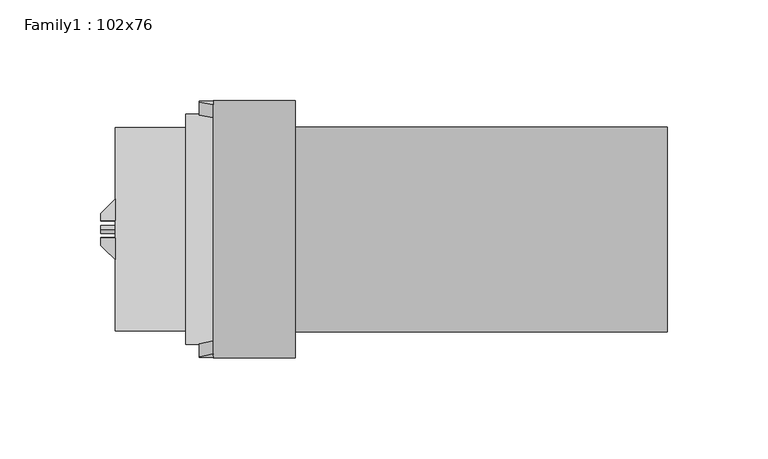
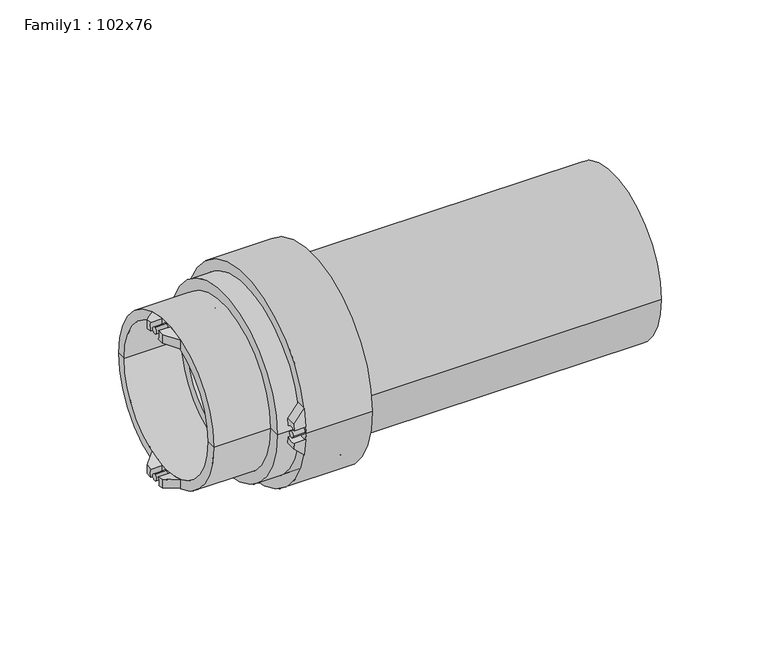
"""IFC4 building model written with IfcOpenShell, lengths in millimetres: proxy geometry, Family1 : 102x76."""

from ifc_helpers import new_model, si_unit, point, frame, frame_2d, origin, place, context, project, spatial, polyline, circle_curve, ellipse_curve, trimmed, segment, composite_curve, outline, extrude, source, transform, mapped, element, save
from ifc_brep_helpers import plane_surface, cylinder_surface, revolved_surface, advanced_brep


def family1_102x76_0a6e0844(model_context):
    return source(origin(), model_context, "Body", "SolidModel", [
        advanced_brep(
        [(-231.9, -57.2253926, 3.7784846), (-231.9, -63.5253926, 3.980829), (-231.9, -63.1528218, 7.94), (-231.9, -56.7977015, 7.94), (-224.8, -61.8572752, 15.0), (-224.8, -63.5253926, 3.980829), (-224.8, -57.2253926, 3.7784846), (-224.8, -55.3536133, 15.0)],
        [
            (0, 1, circle_curve(frame((-231.9, -60.5, 0.0), z_axis=(1.0, 0.0, 0.0), x_axis=(0.0, 1.0, 0.0)), 5.0)),
            (1, 2, circle_curve(frame((-231.9, 0.0, 0.0), z_axis=(-1.0, 0.0, 0.0), x_axis=(0.0, 1.0, 0.0)), 63.65)),
            (2, 3),
            (3, 0, circle_curve(frame((-231.9, 0.0, 0.0), z_axis=(1.0, 0.0, 0.0), x_axis=(0.0, 1.0, 0.0)), 57.35)),
            (4, 5, circle_curve(frame((-224.8, 0.0, 0.0), z_axis=(1.0, 0.0, 0.0), x_axis=(0.0, 1.0, 0.0)), 63.65)),
            (5, 6, circle_curve(frame((-224.8, -60.5, 0.0), z_axis=(-1.0, 0.0, 0.0), x_axis=(0.0, 1.0, 0.0)), 5.0)),
            (6, 7, circle_curve(frame((-224.8, 0.0, 0.0), z_axis=(-1.0, 0.0, 0.0), x_axis=(0.0, 1.0, 0.0)), 57.35)),
            (7, 4),
            (6, 0),
            (3, 7, ellipse_curve(frame((-239.8849858, 0.0, 0.0), z_axis=(-0.705106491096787, 0.0, 0.7091014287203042), x_axis=(0.7091014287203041, 0.0, 0.705106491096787)), 81.3352319, 57.35)),
            (4, 2, ellipse_curve(frame((-239.8849858, 0.0, 0.0), z_axis=(0.705106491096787, 0.0, -0.7091014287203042), x_axis=(-0.7091014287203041, 0.0, -0.705106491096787)), 90.2700525, 63.65)),
            (1, 5),
        ],
        [
            plane_surface(frame((-231.9, -61.8572752, 15.0), z_axis=(-1.0, 0.0, 0.0), x_axis=(0.0, 1.0, 0.0))),
            plane_surface(frame((-224.8, -61.8572752, 15.0), z_axis=(1.0, 0.0, 0.0), x_axis=(0.0, -1.0, 0.0))),
            revolved_surface(polyline([(-182.21005665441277, 57.35, 0.0), (-297.55991494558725, 57.35, 0.0)]), (-224.8, 0.0, 0.0), (1.0, 0.0, 0.0)),
            cylinder_surface(frame((-224.8, 0.0, 0.0), z_axis=(-1.0, 0.0, 0.0), x_axis=(0.0, 1.0, 0.0)), 63.65),
            revolved_surface(polyline([(-231.9, -55.5, 0.0), (-224.8, -55.5, 0.0)]), (-224.8, -60.5, 0.0), (-1.0, 0.0, 0.0)),
            plane_surface(frame((-224.8, 63.65, 15.0), z_axis=(-0.705106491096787, 0.0, 0.7091014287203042), x_axis=(0.0, -1.0, 0.0))),
        ],
        [
            (0, [[1, 2, 3, 4]]),
            (1, [[5, 6, 7, 8]]),
            (2, [[-7, 9, -4, 10]]),
            (3, [[-5, 11, -2, 12]]),
            (4, [[-1, -9, -6, -12]]),
            (5, [[-3, -11, -8, -10]]),
        ],
    ),
        advanced_brep(
        [(-231.9, -63.5253926, -3.980829), (-231.9, -57.2253926, -3.7784846), (-231.9, -56.7977015, -7.94), (-231.9, -63.1528218, -7.94), (-224.8, -63.5253926, -3.980829), (-224.8, -61.8572752, -15.0), (-224.8, -55.3536133, -15.0), (-224.8, -57.2253926, -3.7784846)],
        [
            (0, 1, circle_curve(frame((-231.9, -60.5, 0.0), z_axis=(1.0, 0.0, 0.0), x_axis=(0.0, 1.0, 0.0)), 5.0)),
            (1, 2, circle_curve(frame((-231.9, 0.0, 0.0), z_axis=(1.0, 0.0, 0.0), x_axis=(0.0, 1.0, 0.0)), 57.35)),
            (2, 3),
            (3, 0, circle_curve(frame((-231.9, 0.0, 0.0), z_axis=(-1.0, 0.0, 0.0), x_axis=(0.0, 1.0, 0.0)), 63.65)),
            (4, 5, circle_curve(frame((-224.8, 0.0, 0.0), z_axis=(1.0, 0.0, 0.0), x_axis=(0.0, 1.0, 0.0)), 63.65)),
            (5, 6),
            (6, 7, circle_curve(frame((-224.8, 0.0, 0.0), z_axis=(-1.0, 0.0, 0.0), x_axis=(0.0, 1.0, 0.0)), 57.35)),
            (7, 4, circle_curve(frame((-224.8, -60.5, 0.0), z_axis=(-1.0, 0.0, 0.0), x_axis=(0.0, 1.0, 0.0)), 5.0)),
            (6, 2, ellipse_curve(frame((-239.8849858, 0.0, 0.0), z_axis=(-0.7051064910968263, 0.0, -0.7091014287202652), x_axis=(0.7091014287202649, 0.0, -0.7051064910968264)), 81.3352319, 57.35)),
            (1, 7),
            (4, 0),
            (3, 5, ellipse_curve(frame((-239.8849858, 0.0, 0.0), z_axis=(0.7051064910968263, 0.0, 0.7091014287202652), x_axis=(-0.7091014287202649, 0.0, 0.7051064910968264)), 90.2700525, 63.65)),
        ],
        [
            plane_surface(frame((-231.9, -61.8572752, 15.0), z_axis=(-1.0, 0.0, 0.0), x_axis=(0.0, 1.0, 0.0))),
            plane_surface(frame((-224.8, -61.8572752, 15.0), z_axis=(1.0, 0.0, 0.0), x_axis=(0.0, -1.0, 0.0))),
            revolved_surface(polyline([(-182.21005665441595, 57.35, 0.0), (-297.55991494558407, 57.35, 0.0)]), (-224.8, 0.0, 0.0), (1.0, 0.0, 0.0)),
            cylinder_surface(frame((-224.8, 0.0, 0.0), z_axis=(-1.0, 0.0, 0.0), x_axis=(0.0, 1.0, 0.0)), 63.65),
            revolved_surface(polyline([(-231.9, -55.5, 0.0), (-224.8, -55.5, 0.0)]), (-224.8, -60.5, 0.0), (-1.0, 0.0, 0.0)),
            plane_surface(frame((-231.9, 63.65, -7.94), z_axis=(-0.7051064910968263, 0.0, -0.7091014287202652), x_axis=(0.0, -1.0, 0.0))),
        ],
        [
            (0, [[1, 2, 3, 4]]),
            (1, [[5, 6, 7, 8]]),
            (2, [[-7, 9, -2, 10]]),
            (3, [[-5, 11, -4, 12]]),
            (4, [[-1, -11, -8, -10]]),
            (5, [[-3, -9, -6, -12]]),
        ],
    ),
        advanced_brep(
        [(-231.9, 63.5253926, 3.980829), (-231.9, 57.2253926, 3.7784846), (-231.9, 56.7977015, 7.94), (-231.9, 63.1528218, 7.94), (-224.8, 63.5253926, 3.980829), (-224.8, 61.8572752, 15.0), (-224.8, 55.3536133, 15.0), (-224.8, 57.2253926, 3.7784846)],
        [
            (0, 1, circle_curve(frame((-231.9, 60.5, 0.0), z_axis=(1.0, 0.0, 0.0), x_axis=(0.0, 1.0, 0.0)), 5.0)),
            (1, 2, circle_curve(frame((-231.9, 0.0, 0.0), z_axis=(1.0, 0.0, 0.0), x_axis=(0.0, 1.0, 0.0)), 57.35)),
            (2, 3),
            (3, 0, circle_curve(frame((-231.9, 0.0, 0.0), z_axis=(-1.0, 0.0, 0.0), x_axis=(0.0, 1.0, 0.0)), 63.65)),
            (4, 5, circle_curve(frame((-224.8, 0.0, 0.0), z_axis=(1.0, 0.0, 0.0), x_axis=(0.0, 1.0, 0.0)), 63.65)),
            (5, 6),
            (6, 7, circle_curve(frame((-224.8, 0.0, 0.0), z_axis=(-1.0, 0.0, 0.0), x_axis=(0.0, 1.0, 0.0)), 57.35)),
            (7, 4, circle_curve(frame((-224.8, 60.5, 0.0), z_axis=(-1.0, 0.0, 0.0), x_axis=(0.0, 1.0, 0.0)), 5.0)),
            (6, 2, ellipse_curve(frame((-239.8849858, 0.0, 0.0), z_axis=(-0.705106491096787, 0.0, 0.7091014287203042), x_axis=(0.7091014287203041, 0.0, 0.705106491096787)), 81.3352319, 57.35)),
            (1, 7),
            (4, 0),
            (3, 5, ellipse_curve(frame((-239.8849858, 0.0, 0.0), z_axis=(0.705106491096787, 0.0, -0.7091014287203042), x_axis=(-0.7091014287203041, 0.0, -0.705106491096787)), 90.2700525, 63.65)),
        ],
        [
            plane_surface(frame((-231.9, -61.8572752, 15.0), z_axis=(-1.0, 0.0, 0.0), x_axis=(0.0, 1.0, 0.0))),
            plane_surface(frame((-224.8, -61.8572752, 15.0), z_axis=(1.0, 0.0, 0.0), x_axis=(0.0, -1.0, 0.0))),
            revolved_surface(polyline([(-182.21005665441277, 57.35, 0.0), (-297.55991494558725, 57.35, 0.0)]), (-224.8, 0.0, 0.0), (1.0, 0.0, 0.0)),
            cylinder_surface(frame((-224.8, 0.0, 0.0), z_axis=(-1.0, 0.0, 0.0), x_axis=(0.0, 1.0, 0.0)), 63.65),
            revolved_surface(polyline([(-231.9, 65.5, 0.0), (-224.8, 65.5, 0.0)]), (-224.8, 60.5, 0.0), (-1.0, 0.0, 0.0)),
            plane_surface(frame((-224.8, 63.65, 15.0), z_axis=(-0.705106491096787, 0.0, 0.7091014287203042), x_axis=(0.0, -1.0, 0.0))),
        ],
        [
            (0, [[1, 2, 3, 4]]),
            (1, [[5, 6, 7, 8]]),
            (2, [[-7, 9, -2, 10]]),
            (3, [[-5, 11, -4, 12]]),
            (4, [[-1, -11, -8, -10]]),
            (5, [[-3, -9, -6, -12]]),
        ],
    ),
        advanced_brep(
        [(-231.9, 57.2253926, -3.7784846), (-231.9, 63.5253926, -3.980829), (-231.9, 63.1528218, -7.94), (-231.9, 56.7977015, -7.94), (-224.8, 61.8572752, -15.0), (-224.8, 63.5253926, -3.980829), (-224.8, 57.2253926, -3.7784846), (-224.8, 55.3536133, -15.0)],
        [
            (0, 1, circle_curve(frame((-231.9, 60.5, 0.0), z_axis=(1.0, 0.0, 0.0), x_axis=(0.0, 1.0, 0.0)), 5.0)),
            (1, 2, circle_curve(frame((-231.9, 0.0, 0.0), z_axis=(-1.0, 0.0, 0.0), x_axis=(0.0, 1.0, 0.0)), 63.65)),
            (2, 3),
            (3, 0, circle_curve(frame((-231.9, 0.0, 0.0), z_axis=(1.0, 0.0, 0.0), x_axis=(0.0, 1.0, 0.0)), 57.35)),
            (4, 5, circle_curve(frame((-224.8, 0.0, 0.0), z_axis=(1.0, 0.0, 0.0), x_axis=(0.0, 1.0, 0.0)), 63.65)),
            (5, 6, circle_curve(frame((-224.8, 60.5, 0.0), z_axis=(-1.0, 0.0, 0.0), x_axis=(0.0, 1.0, 0.0)), 5.0)),
            (6, 7, circle_curve(frame((-224.8, 0.0, 0.0), z_axis=(-1.0, 0.0, 0.0), x_axis=(0.0, 1.0, 0.0)), 57.35)),
            (7, 4),
            (6, 0),
            (3, 7, ellipse_curve(frame((-239.8849858, 0.0, 0.0), z_axis=(-0.7051064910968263, 0.0, -0.7091014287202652), x_axis=(0.7091014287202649, 0.0, -0.7051064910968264)), 81.3352319, 57.35)),
            (4, 2, ellipse_curve(frame((-239.8849858, 0.0, 0.0), z_axis=(0.7051064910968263, 0.0, 0.7091014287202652), x_axis=(-0.7091014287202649, 0.0, 0.7051064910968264)), 90.2700525, 63.65)),
            (1, 5),
        ],
        [
            plane_surface(frame((-231.9, -61.8572752, 15.0), z_axis=(-1.0, 0.0, 0.0), x_axis=(0.0, 1.0, 0.0))),
            plane_surface(frame((-224.8, -61.8572752, 15.0), z_axis=(1.0, 0.0, 0.0), x_axis=(0.0, -1.0, 0.0))),
            revolved_surface(polyline([(-182.21005665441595, 57.35, 0.0), (-297.55991494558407, 57.35, 0.0)]), (-224.8, 0.0, 0.0), (1.0, 0.0, 0.0)),
            cylinder_surface(frame((-224.8, 0.0, 0.0), z_axis=(-1.0, 0.0, 0.0), x_axis=(0.0, 1.0, 0.0)), 63.65),
            revolved_surface(polyline([(-231.9, 65.5, 0.0), (-224.8, 65.5, 0.0)]), (-224.8, 60.5, 0.0), (-1.0, 0.0, 0.0)),
            plane_surface(frame((-231.9, 63.65, -7.94), z_axis=(-0.7051064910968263, 0.0, -0.7091014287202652), x_axis=(0.0, -1.0, 0.0))),
        ],
        [
            (0, [[1, 2, 3, 4]]),
            (1, [[5, 6, 7, 8]]),
            (2, [[-7, 9, -4, 10]]),
            (3, [[-5, 11, -2, 12]]),
            (4, [[-1, -9, -6, -12]]),
            (5, [[-3, -11, -8, -10]]),
        ],
    ),
        extrude(outline(composite_curve([segment(trimmed(circle_curve(frame_2d((-60.5, 0.0)), 2.0), [point((-62.5, 0.0))], [point((-58.5, 0.0))], False, "CARTESIAN"), True, "CONTINUOUS"), segment(trimmed(circle_curve(frame_2d((-60.5, 0.0)), 2.0), [point((-58.5, 0.0))], [point((-62.5, 0.0))], False, "CARTESIAN"), True, "CONTINUOUS")], self_intersect=False)), frame((-231.9, 0.0, 0.0), z_axis=(1.0, 0.0, 0.0), x_axis=(0.0, 1.0, 0.0)), (0.0, 0.0, 1.0), 7.1),
        extrude(outline(composite_curve([segment(trimmed(circle_curve(frame_2d((60.5, 0.0)), 2.0), [point((58.5, 0.0))], [point((62.5, 0.0))], False, "CARTESIAN"), True, "CONTINUOUS"), segment(trimmed(circle_curve(frame_2d((60.5, 0.0)), 2.0), [point((62.5, 0.0))], [point((58.5, 0.0))], False, "CARTESIAN"), True, "CONTINUOUS")], self_intersect=False)), frame((-231.9, 0.0, 0.0), z_axis=(1.0, 0.0, 0.0), x_axis=(0.0, 1.0, 0.0)), (0.0, 0.0, 1.0), 7.1),
        advanced_brep(
        [(-189.8, -50.8, 0.0), (-189.8, 50.8, 0.0), (-189.8, 57.2, 0.0), (-189.8, -57.2, 0.0), (-184.3, -50.8, 0.0), (-184.3, 50.8, 0.0), (-184.3, -63.8, 0.0), (-184.3, 63.8, 0.0), (-224.8, -63.8, 0.0), (-224.8, 63.8, 0.0), (-224.8, -57.2, 0.0), (-224.8, 57.2, 0.0)],
        [
            (0, 1, circle_curve(frame((-189.8, 0.0, 0.0), z_axis=(1.0, 0.0, 0.0), x_axis=(0.0, 1.0, 0.0)), 50.8)),
            (1, 2),
            (2, 3, circle_curve(frame((-189.8, 0.0, 0.0), z_axis=(-1.0, 0.0, 0.0), x_axis=(0.0, 1.0, 0.0)), 57.2)),
            (3, 0),
            (1, 0, circle_curve(frame((-189.8, 0.0, 0.0), z_axis=(1.0, 0.0, 0.0), x_axis=(0.0, 1.0, 0.0)), 50.8)),
            (3, 2, circle_curve(frame((-189.8, 0.0, 0.0), z_axis=(-1.0, 0.0, 0.0), x_axis=(0.0, 1.0, 0.0)), 57.2)),
            (4, 5, circle_curve(frame((-184.3, 0.0, 0.0), z_axis=(1.0, 0.0, 0.0), x_axis=(0.0, 1.0, 0.0)), 50.8)),
            (5, 1),
            (0, 4),
            (5, 4, circle_curve(frame((-184.3, 0.0, 0.0), z_axis=(1.0, 0.0, 0.0), x_axis=(0.0, 1.0, 0.0)), 50.8)),
            (6, 7, circle_curve(frame((-184.3, 0.0, 0.0), z_axis=(1.0, 0.0, 0.0), x_axis=(0.0, 1.0, 0.0)), 63.8)),
            (7, 5),
            (4, 6),
            (7, 6, circle_curve(frame((-184.3, 0.0, 0.0), z_axis=(1.0, 0.0, 0.0), x_axis=(0.0, 1.0, 0.0)), 63.8)),
            (8, 9, circle_curve(frame((-224.8, 0.0, 0.0), z_axis=(1.0, 0.0, 0.0), x_axis=(0.0, 1.0, 0.0)), 63.8)),
            (9, 7),
            (6, 8),
            (9, 8, circle_curve(frame((-224.8, 0.0, 0.0), z_axis=(1.0, 0.0, 0.0), x_axis=(0.0, 1.0, 0.0)), 63.8)),
            (10, 11, circle_curve(frame((-224.8, 0.0, 0.0), z_axis=(1.0, 0.0, 0.0), x_axis=(0.0, 1.0, 0.0)), 57.2)),
            (11, 9),
            (8, 10),
            (11, 10, circle_curve(frame((-224.8, 0.0, 0.0), z_axis=(1.0, 0.0, 0.0), x_axis=(0.0, 1.0, 0.0)), 57.2)),
            (2, 11),
            (10, 3),
        ],
        [
            plane_surface(frame((-189.8, 0.0, 0.0), z_axis=(-1.0, 0.0, 0.0), x_axis=(0.0, 1.0, 0.0))),
            revolved_surface(polyline([(-189.80000000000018, 50.8, 0.0), (-184.30000000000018, 50.8, 0.0)]), (-2738.7826241, 0.0, 0.0), (-1.0, 0.0, 0.0)),
            plane_surface(frame((-184.3, 0.0, 0.0), z_axis=(1.0, 0.0, 0.0), x_axis=(0.0, 1.0, 0.0))),
            cylinder_surface(frame((-2738.7826241, 0.0, 0.0), z_axis=(-1.0, 0.0, 0.0), x_axis=(0.0, 1.0, 0.0)), 63.8),
            plane_surface(frame((-224.8, 0.0, 0.0), z_axis=(-1.0, 0.0, 0.0), x_axis=(0.0, 1.0, 0.0))),
            revolved_surface(polyline([(-224.80000000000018, 57.2, 0.0), (-189.80000000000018, 57.2, 0.0)]), (-2738.7826241, 0.0, 0.0), (-1.0, 0.0, 0.0)),
        ],
        [
            (0, [[1, 2, 3, 4]]),
            (0, [[5, -4, 6, -2]]),
            (1, [[7, 8, -1, 9]]),
            (1, [[10, -9, -5, -8]]),
            (2, [[11, 12, -7, 13]]),
            (2, [[14, -13, -10, -12]]),
            (3, [[15, 16, -11, 17]]),
            (3, [[18, -17, -14, -16]]),
            (4, [[19, 20, -15, 21]]),
            (4, [[22, -21, -18, -20]]),
            (5, [[-3, 23, -19, 24]]),
            (5, [[-6, -24, -22, -23]]),
        ],
    ),
        advanced_brep(
        [(-280.6, 4.082855, 44.663775), (-280.6, 4.3221448, 50.063775), (-280.6, 7.94, 49.6187354), (-280.6, 7.94, 44.1415779), (-273.5, 15.0, 47.9589668), (-273.5, 4.3221448, 50.063775), (-273.5, 4.082855, 44.663775), (-273.5, 15.0, 42.2672746)],
        [
            (0, 1, circle_curve(frame((-280.6, 0.0, 47.55), z_axis=(1.0, 0.0, 0.0), x_axis=(0.0, 0.0, -1.0)), 5.0)),
            (1, 2, circle_curve(frame((-280.6, 0.0, 0.0), z_axis=(-1.0, 0.0, 0.0), x_axis=(0.0, 0.0, -1.0)), 50.25)),
            (2, 3),
            (3, 0, circle_curve(frame((-280.6, 0.0, 0.0), z_axis=(1.0, 0.0, 0.0), x_axis=(0.0, 0.0, -1.0)), 44.85)),
            (4, 5, circle_curve(frame((-273.5, 0.0, 0.0), z_axis=(1.0, 0.0, 0.0), x_axis=(0.0, 0.0, -1.0)), 50.25)),
            (5, 6, circle_curve(frame((-273.5, 0.0, 47.55), z_axis=(-1.0, 0.0, 0.0), x_axis=(0.0, 0.0, -1.0)), 5.0)),
            (6, 7, circle_curve(frame((-273.5, 0.0, 0.0), z_axis=(-1.0, 0.0, 0.0), x_axis=(0.0, 0.0, -1.0)), 44.85)),
            (7, 4),
            (6, 0),
            (3, 7, ellipse_curve(frame((-288.5849858, 0.0, 0.0), z_axis=(-0.7051064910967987, 0.7091014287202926, 0.0), x_axis=(0.7091014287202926, 0.7051064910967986, 0.0)), 63.6074133, 44.85)),
            (4, 2, ellipse_curve(frame((-288.5849858, 0.0, 0.0), z_axis=(0.7051064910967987, -0.7091014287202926, 0.0), x_axis=(-0.7091014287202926, -0.7051064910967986, 0.0)), 71.265831, 50.25)),
            (1, 5),
        ],
        [
            plane_surface(frame((-280.6, 15.0, 47.9589668), z_axis=(-1.0, 0.0, 0.0), x_axis=(0.0, 0.0, -1.0))),
            plane_surface(frame((-273.5, 15.0, 47.9589668), z_axis=(1.0, 0.0, 0.0), x_axis=(0.0, 0.0, 1.0))),
            revolved_surface(polyline([(-243.48087815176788, 0.0, -44.85), (-333.6890934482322, 0.0, -44.85)]), (-273.5, 0.0, 0.0), (1.0000000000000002, 0.0, 0.0)),
            cylinder_surface(frame((-273.5, 0.0, 0.0), z_axis=(-1.0000000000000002, 0.0, 0.0), x_axis=(0.0, 0.0, -1.0)), 50.25),
            revolved_surface(polyline([(-280.6, 0.0, 42.55), (-273.5, 0.0, 42.55)]), (-273.5, 0.0, 47.55), (-1.0000000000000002, 0.0, 0.0)),
            plane_surface(frame((-273.5, 15.0, -50.25), z_axis=(-0.7051064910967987, 0.7091014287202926, 0.0), x_axis=(0.0, 0.0, 1.0))),
        ],
        [
            (0, [[1, 2, 3, 4]]),
            (1, [[5, 6, 7, 8]]),
            (2, [[-7, 9, -4, 10]]),
            (3, [[-5, 11, -2, 12]]),
            (4, [[-1, -9, -6, -12]]),
            (5, [[-3, -11, -8, -10]]),
        ],
    ),
        advanced_brep(
        [(-280.6, -4.3221448, 50.063775), (-280.6, -4.082855, 44.663775), (-280.6, -7.94, 44.1415779), (-280.6, -7.94, 49.6187354), (-273.5, -4.3221448, 50.063775), (-273.5, -15.0, 47.9589668), (-273.5, -15.0, 42.2672746), (-273.5, -4.082855, 44.663775)],
        [
            (0, 1, circle_curve(frame((-280.6, 0.0, 47.55), z_axis=(1.0, 0.0, 0.0), x_axis=(0.0, 0.0, -1.0)), 5.0)),
            (1, 2, circle_curve(frame((-280.6, 0.0, 0.0), z_axis=(1.0, 0.0, 0.0), x_axis=(0.0, 0.0, -1.0)), 44.85)),
            (2, 3),
            (3, 0, circle_curve(frame((-280.6, 0.0, 0.0), z_axis=(-1.0, 0.0, 0.0), x_axis=(0.0, 0.0, -1.0)), 50.25)),
            (4, 5, circle_curve(frame((-273.5, 0.0, 0.0), z_axis=(1.0, 0.0, 0.0), x_axis=(0.0, 0.0, -1.0)), 50.25)),
            (5, 6),
            (6, 7, circle_curve(frame((-273.5, 0.0, 0.0), z_axis=(-1.0, 0.0, 0.0), x_axis=(0.0, 0.0, -1.0)), 44.85)),
            (7, 4, circle_curve(frame((-273.5, 0.0, 47.55), z_axis=(-1.0, 0.0, 0.0), x_axis=(0.0, 0.0, -1.0)), 5.0)),
            (6, 2, ellipse_curve(frame((-288.5849858, 0.0, 0.0), z_axis=(-0.7051064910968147, -0.7091014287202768, 0.0), x_axis=(0.7091014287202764, -0.7051064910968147, 0.0)), 63.6074133, 44.85)),
            (1, 7),
            (4, 0),
            (3, 5, ellipse_curve(frame((-288.5849858, 0.0, 0.0), z_axis=(0.7051064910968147, 0.7091014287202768, 0.0), x_axis=(-0.7091014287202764, 0.7051064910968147, 0.0)), 71.265831, 50.25)),
        ],
        [
            plane_surface(frame((-280.6, 15.0, 47.9589668), z_axis=(-1.0, 0.0, 0.0), x_axis=(0.0, 0.0, -1.0))),
            plane_surface(frame((-273.5, 15.0, 47.9589668), z_axis=(1.0, 0.0, 0.0), x_axis=(0.0, 0.0, 1.0))),
            revolved_surface(polyline([(-243.4808781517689, 0.0, -44.85), (-333.6890934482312, 0.0, -44.85)]), (-273.5, 0.0, 0.0), (1.0000000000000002, 0.0, 0.0)),
            cylinder_surface(frame((-273.5, 0.0, 0.0), z_axis=(-1.0000000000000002, 0.0, 0.0), x_axis=(0.0, 0.0, -1.0)), 50.25),
            revolved_surface(polyline([(-280.6, 0.0, 42.55), (-273.5, 0.0, 42.55)]), (-273.5, 0.0, 47.55), (-1.0000000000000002, 0.0, 0.0)),
            plane_surface(frame((-280.6, -7.94, -50.25), z_axis=(-0.7051064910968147, -0.7091014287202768, 0.0), x_axis=(0.0, 0.0, 1.0))),
        ],
        [
            (0, [[1, 2, 3, 4]]),
            (1, [[5, 6, 7, 8]]),
            (2, [[-7, 9, -2, 10]]),
            (3, [[-5, 11, -4, 12]]),
            (4, [[-1, -11, -8, -10]]),
            (5, [[-3, -9, -6, -12]]),
        ],
    ),
        advanced_brep(
        [(-280.6, 4.3221448, -50.063775), (-280.6, 4.082855, -44.663775), (-280.6, 7.94, -44.1415779), (-280.6, 7.94, -49.6187354), (-273.5, 4.3221448, -50.063775), (-273.5, 15.0, -47.9589668), (-273.5, 15.0, -42.2672746), (-273.5, 4.082855, -44.663775)],
        [
            (0, 1, circle_curve(frame((-280.6, 0.0, -47.55), z_axis=(1.0, 0.0, 0.0), x_axis=(0.0, 0.0, -1.0)), 5.0)),
            (1, 2, circle_curve(frame((-280.6, 0.0, 0.0), z_axis=(1.0, 0.0, 0.0), x_axis=(0.0, 0.0, -1.0)), 44.85)),
            (2, 3),
            (3, 0, circle_curve(frame((-280.6, 0.0, 0.0), z_axis=(-1.0, 0.0, 0.0), x_axis=(0.0, 0.0, -1.0)), 50.25)),
            (4, 5, circle_curve(frame((-273.5, 0.0, 0.0), z_axis=(1.0, 0.0, 0.0), x_axis=(0.0, 0.0, -1.0)), 50.25)),
            (5, 6),
            (6, 7, circle_curve(frame((-273.5, 0.0, 0.0), z_axis=(-1.0, 0.0, 0.0), x_axis=(0.0, 0.0, -1.0)), 44.85)),
            (7, 4, circle_curve(frame((-273.5, 0.0, -47.55), z_axis=(-1.0, 0.0, 0.0), x_axis=(0.0, 0.0, -1.0)), 5.0)),
            (6, 2, ellipse_curve(frame((-288.5849858, 0.0, 0.0), z_axis=(-0.7051064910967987, 0.7091014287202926, 0.0), x_axis=(0.7091014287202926, 0.7051064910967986, 0.0)), 63.6074133, 44.85)),
            (1, 7),
            (4, 0),
            (3, 5, ellipse_curve(frame((-288.5849858, 0.0, 0.0), z_axis=(0.7051064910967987, -0.7091014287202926, 0.0), x_axis=(-0.7091014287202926, -0.7051064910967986, 0.0)), 71.265831, 50.25)),
        ],
        [
            plane_surface(frame((-280.6, 15.0, 47.9589668), z_axis=(-1.0, 0.0, 0.0), x_axis=(0.0, 0.0, -1.0))),
            plane_surface(frame((-273.5, 15.0, 47.9589668), z_axis=(1.0, 0.0, 0.0), x_axis=(0.0, 0.0, 1.0))),
            revolved_surface(polyline([(-243.48087815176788, 0.0, -44.85), (-333.6890934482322, 0.0, -44.85)]), (-273.5, 0.0, 0.0), (1.0000000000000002, 0.0, 0.0)),
            cylinder_surface(frame((-273.5, 0.0, 0.0), z_axis=(-1.0000000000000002, 0.0, 0.0), x_axis=(0.0, 0.0, -1.0)), 50.25),
            revolved_surface(polyline([(-280.6, 0.0, -52.55), (-273.5, 0.0, -52.55)]), (-273.5, 0.0, -47.55), (-1.0000000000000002, 0.0, 0.0)),
            plane_surface(frame((-273.5, 15.0, -50.25), z_axis=(-0.7051064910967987, 0.7091014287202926, 0.0), x_axis=(0.0, 0.0, 1.0))),
        ],
        [
            (0, [[1, 2, 3, 4]]),
            (1, [[5, 6, 7, 8]]),
            (2, [[-7, 9, -2, 10]]),
            (3, [[-5, 11, -4, 12]]),
            (4, [[-1, -11, -8, -10]]),
            (5, [[-3, -9, -6, -12]]),
        ],
    ),
        advanced_brep(
        [(-280.6, -4.082855, -44.663775), (-280.6, -4.3221448, -50.063775), (-280.6, -7.94, -49.6187354), (-280.6, -7.94, -44.1415779), (-273.5, -15.0, -47.9589668), (-273.5, -4.3221448, -50.063775), (-273.5, -4.082855, -44.663775), (-273.5, -15.0, -42.2672746)],
        [
            (0, 1, circle_curve(frame((-280.6, 0.0, -47.55), z_axis=(1.0, 0.0, 0.0), x_axis=(0.0, 0.0, -1.0)), 5.0)),
            (1, 2, circle_curve(frame((-280.6, 0.0, 0.0), z_axis=(-1.0, 0.0, 0.0), x_axis=(0.0, 0.0, -1.0)), 50.25)),
            (2, 3),
            (3, 0, circle_curve(frame((-280.6, 0.0, 0.0), z_axis=(1.0, 0.0, 0.0), x_axis=(0.0, 0.0, -1.0)), 44.85)),
            (4, 5, circle_curve(frame((-273.5, 0.0, 0.0), z_axis=(1.0, 0.0, 0.0), x_axis=(0.0, 0.0, -1.0)), 50.25)),
            (5, 6, circle_curve(frame((-273.5, 0.0, -47.55), z_axis=(-1.0, 0.0, 0.0), x_axis=(0.0, 0.0, -1.0)), 5.0)),
            (6, 7, circle_curve(frame((-273.5, 0.0, 0.0), z_axis=(-1.0, 0.0, 0.0), x_axis=(0.0, 0.0, -1.0)), 44.85)),
            (7, 4),
            (6, 0),
            (3, 7, ellipse_curve(frame((-288.5849858, 0.0, 0.0), z_axis=(-0.7051064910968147, -0.7091014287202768, 0.0), x_axis=(0.7091014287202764, -0.7051064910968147, 0.0)), 63.6074133, 44.85)),
            (4, 2, ellipse_curve(frame((-288.5849858, 0.0, 0.0), z_axis=(0.7051064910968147, 0.7091014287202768, 0.0), x_axis=(-0.7091014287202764, 0.7051064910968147, 0.0)), 71.265831, 50.25)),
            (1, 5),
        ],
        [
            plane_surface(frame((-280.6, 15.0, 47.9589668), z_axis=(-1.0, 0.0, 0.0), x_axis=(0.0, 0.0, -1.0))),
            plane_surface(frame((-273.5, 15.0, 47.9589668), z_axis=(1.0, 0.0, 0.0), x_axis=(0.0, 0.0, 1.0))),
            revolved_surface(polyline([(-243.4808781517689, 0.0, -44.85), (-333.6890934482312, 0.0, -44.85)]), (-273.5, 0.0, 0.0), (1.0000000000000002, 0.0, 0.0)),
            cylinder_surface(frame((-273.5, 0.0, 0.0), z_axis=(-1.0000000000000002, 0.0, 0.0), x_axis=(0.0, 0.0, -1.0)), 50.25),
            revolved_surface(polyline([(-280.6, 0.0, -52.55), (-273.5, 0.0, -52.55)]), (-273.5, 0.0, -47.55), (-1.0000000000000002, 0.0, 0.0)),
            plane_surface(frame((-280.6, -7.94, -50.25), z_axis=(-0.7051064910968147, -0.7091014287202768, 0.0), x_axis=(0.0, 0.0, 1.0))),
        ],
        [
            (0, [[1, 2, 3, 4]]),
            (1, [[5, 6, 7, 8]]),
            (2, [[-7, 9, -4, 10]]),
            (3, [[-5, 11, -2, 12]]),
            (4, [[-1, -9, -6, -12]]),
            (5, [[-3, -11, -8, -10]]),
        ],
    ),
        extrude(outline(composite_curve([segment(trimmed(circle_curve(frame_2d((0.0, 47.55)), 2.0), [point((0.0, 49.55))], [point((0.0, 45.55))], False, "CARTESIAN"), True, "CONTINUOUS"), segment(trimmed(circle_curve(frame_2d((0.0, 47.55)), 2.0), [point((0.0, 45.55))], [point((0.0, 49.55))], False, "CARTESIAN"), True, "CONTINUOUS")], self_intersect=False)), frame((-280.6, 0.0, 0.0), z_axis=(1.0, 0.0, 0.0), x_axis=(0.0, 1.0, 0.0)), (0.0, 0.0, 1.0), 7.1),
        extrude(outline(composite_curve([segment(trimmed(circle_curve(frame_2d((0.0, -47.55)), 2.0), [point((0.0, -45.55))], [point((0.0, -49.55))], False, "CARTESIAN"), True, "CONTINUOUS"), segment(trimmed(circle_curve(frame_2d((0.0, -47.55)), 2.0), [point((0.0, -49.55))], [point((0.0, -45.55))], False, "CARTESIAN"), True, "CONTINUOUS")], self_intersect=False)), frame((-280.6, 0.0, 0.0), z_axis=(1.0, 0.0, 0.0), x_axis=(0.0, 1.0, 0.0)), (0.0, 0.0, 1.0), 7.1),
        advanced_brep(
        [(-238.6, 57.15, 0.0), (-238.6, -57.15, 0.0), (-238.6, -50.4, 0.0), (-238.6, 50.4, 0.0), (-189.8, 57.15, 0.0), (-189.8, -57.15, 0.0), (-189.8, 50.65, 0.0), (-189.8, -50.65, 0.0), (-230.7, 50.65, 0.0), (-230.7, -50.65, 0.0), (-273.5, 44.7, 0.0), (-273.5, -44.7, 0.0), (-238.6, -44.7, 0.0), (-238.6, 44.7, 0.0), (-273.5, 50.4, 0.0), (-273.5, -50.4, 0.0), (-230.7, 38.1, 0.0), (-230.7, -38.1, 0.0), (-238.6, 38.1, 0.0), (-238.6, -38.1, 0.0)],
        [
            (0, 1, circle_curve(frame((-238.6, 0.0, 0.0), z_axis=(-1.0, 0.0, 0.0), x_axis=(0.0, -1.0000000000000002, 0.0)), 57.15)),
            (1, 2),
            (2, 3, circle_curve(frame((-238.6, 0.0, 0.0), z_axis=(1.0, 0.0, 0.0), x_axis=(0.0, -1.0000000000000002, 0.0)), 50.4)),
            (3, 0),
            (1, 0, circle_curve(frame((-238.6, 0.0, 0.0), z_axis=(-1.0, 0.0, 0.0), x_axis=(0.0, -1.0000000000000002, 0.0)), 57.15)),
            (3, 2, circle_curve(frame((-238.6, 0.0, 0.0), z_axis=(1.0, 0.0, 0.0), x_axis=(0.0, -1.0000000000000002, 0.0)), 50.4)),
            (4, 5, circle_curve(frame((-189.8, 0.0, 0.0), z_axis=(-1.0, 0.0, 0.0), x_axis=(0.0, -1.0000000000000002, 0.0)), 57.15)),
            (5, 1),
            (0, 4),
            (5, 4, circle_curve(frame((-189.8, 0.0, 0.0), z_axis=(-1.0, 0.0, 0.0), x_axis=(0.0, -1.0000000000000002, 0.0)), 57.15)),
            (6, 7, circle_curve(frame((-189.8, 0.0, 0.0), z_axis=(-1.0, 0.0, 0.0), x_axis=(0.0, -1.0000000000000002, 0.0)), 50.65)),
            (7, 5),
            (4, 6),
            (7, 6, circle_curve(frame((-189.8, 0.0, 0.0), z_axis=(-1.0, 0.0, 0.0), x_axis=(0.0, -1.0000000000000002, 0.0)), 50.65)),
            (8, 9, circle_curve(frame((-230.7, 0.0, 0.0), z_axis=(-1.0, 0.0, 0.0), x_axis=(0.0, -1.0000000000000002, 0.0)), 50.65)),
            (9, 7),
            (6, 8),
            (9, 8, circle_curve(frame((-230.7, 0.0, 0.0), z_axis=(-1.0, 0.0, 0.0), x_axis=(0.0, -1.0000000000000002, 0.0)), 50.65)),
            (10, 11, circle_curve(frame((-273.5, 0.0, 0.0), z_axis=(-1.0, 0.0, 0.0), x_axis=(0.0, -1.0000000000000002, 0.0)), 44.7)),
            (11, 12),
            (12, 13, circle_curve(frame((-238.6, 0.0, 0.0), z_axis=(1.0, 0.0, 0.0), x_axis=(0.0, -1.0000000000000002, 0.0)), 44.7)),
            (13, 10),
            (11, 10, circle_curve(frame((-273.5, 0.0, 0.0), z_axis=(-1.0, 0.0, 0.0), x_axis=(0.0, -1.0000000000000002, 0.0)), 44.7)),
            (13, 12, circle_curve(frame((-238.6, 0.0, 0.0), z_axis=(1.0, 0.0, 0.0), x_axis=(0.0, -1.0000000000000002, 0.0)), 44.7)),
            (14, 15, circle_curve(frame((-273.5, 0.0, 0.0), z_axis=(-1.0, 0.0, 0.0), x_axis=(0.0, -1.0000000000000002, 0.0)), 50.4)),
            (15, 11),
            (10, 14),
            (15, 14, circle_curve(frame((-273.5, 0.0, 0.0), z_axis=(-1.0, 0.0, 0.0), x_axis=(0.0, -1.0000000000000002, 0.0)), 50.4)),
            (2, 15),
            (14, 3),
            (16, 17, circle_curve(frame((-230.7, 0.0, 0.0), z_axis=(-1.0, 0.0, 0.0), x_axis=(0.0, -1.0000000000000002, 0.0)), 38.1)),
            (17, 9),
            (8, 16),
            (17, 16, circle_curve(frame((-230.7, 0.0, 0.0), z_axis=(-1.0, 0.0, 0.0), x_axis=(0.0, -1.0000000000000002, 0.0)), 38.1)),
            (18, 19, circle_curve(frame((-238.6, 0.0, 0.0), z_axis=(-1.0, 0.0, 0.0), x_axis=(0.0, -1.0000000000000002, 0.0)), 38.1)),
            (19, 17),
            (16, 18),
            (19, 18, circle_curve(frame((-238.6, 0.0, 0.0), z_axis=(-1.0, 0.0, 0.0), x_axis=(0.0, -1.0000000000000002, 0.0)), 38.1)),
            (12, 19),
            (18, 13),
        ],
        [
            plane_surface(frame((-238.6, 0.0, 0.0), z_axis=(-1.0, 0.0, 0.0), x_axis=(0.0, -1.0, 0.0))),
            cylinder_surface(frame((-1803.0018184, 0.0, 0.0), z_axis=(1.0000000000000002, 0.0, 0.0), x_axis=(0.0, -1.0000000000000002, 0.0)), 57.15),
            plane_surface(frame((-189.8, 0.0, 0.0), z_axis=(1.0, 0.0, 0.0), x_axis=(0.0, -1.0, 0.0))),
            revolved_surface(polyline([(-189.79999999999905, -50.65000000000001, 0.0), (-230.69999999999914, -50.65000000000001, 0.0)]), (-1803.0018184, 0.0, 0.0), (1.0000000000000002, 0.0, 0.0)),
            revolved_surface(polyline([(-238.599999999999, -44.70000000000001, 0.0), (-273.49999999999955, -44.70000000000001, 0.0)]), (-1803.0018184, 0.0, 0.0), (1.0000000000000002, 0.0, 0.0)),
            plane_surface(frame((-273.5, 0.0, 0.0), z_axis=(-1.0, 0.0, 0.0), x_axis=(0.0, -1.0, 0.0))),
            cylinder_surface(frame((-1803.0018184, 0.0, 0.0), z_axis=(1.0000000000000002, 0.0, 0.0), x_axis=(0.0, -1.0000000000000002, 0.0)), 50.4),
            plane_surface(frame((-230.7, 0.0, 0.0), z_axis=(1.0, 0.0, 0.0), x_axis=(0.0, -1.0, 0.0))),
            revolved_surface(polyline([(-230.69999999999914, -38.10000000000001, 0.0), (-238.599999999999, -38.10000000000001, 0.0)]), (-1803.0018184, 0.0, 0.0), (1.0000000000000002, 0.0, 0.0)),
        ],
        [
            (0, [[1, 2, 3, 4]]),
            (0, [[5, -4, 6, -2]]),
            (1, [[7, 8, -1, 9]]),
            (1, [[10, -9, -5, -8]]),
            (2, [[11, 12, -7, 13]]),
            (2, [[14, -13, -10, -12]]),
            (3, [[15, 16, -11, 17]]),
            (3, [[18, -17, -14, -16]]),
            (4, [[19, 20, 21, 22]]),
            (4, [[23, -22, 24, -20]]),
            (5, [[25, 26, -19, 27]]),
            (5, [[28, -27, -23, -26]]),
            (6, [[-3, 29, -25, 30]]),
            (6, [[-6, -30, -28, -29]]),
            (7, [[31, 32, -15, 33]]),
            (7, [[34, -33, -18, -32]]),
            (8, [[35, 36, -31, 37]]),
            (8, [[38, -37, -34, -36]]),
            (0, [[-21, 39, -35, 40]]),
            (0, [[-24, -40, -38, -39]]),
        ],
    ),
        advanced_brep(
        [(0.0, -50.8, 0.0), (0.0, 50.8, 0.0), (0.0, 0.0, 0.0), (-189.8, -50.8, 0.0), (-189.8, 50.8, 0.0), (-189.8, 0.0, 0.0)],
        [
            (0, 1, circle_curve(frame((0.0, 0.0, 0.0), z_axis=(1.0, 0.0, 0.0), x_axis=(0.0, 1.0, 0.0)), 50.8)),
            (1, 2),
            (2, 0),
            (1, 0, circle_curve(frame((0.0, 0.0, 0.0), z_axis=(1.0, 0.0, 0.0), x_axis=(0.0, 1.0, 0.0)), 50.8)),
            (3, 4, circle_curve(frame((-189.8, 0.0, 0.0), z_axis=(1.0, 0.0, 0.0), x_axis=(0.0, 1.0, 0.0)), 50.8)),
            (4, 1),
            (0, 3),
            (4, 3, circle_curve(frame((-189.8, 0.0, 0.0), z_axis=(1.0, 0.0, 0.0), x_axis=(0.0, 1.0, 0.0)), 50.8)),
            (5, 4),
            (3, 5),
        ],
        [
            plane_surface(frame((0.0, 0.0, 0.0), z_axis=(1.0, 0.0, 0.0), x_axis=(0.0, 1.0, 0.0))),
            cylinder_surface(frame((25.0, 0.0, 0.0), z_axis=(-1.0, 0.0, 0.0), x_axis=(0.0, 1.0, 0.0)), 50.8),
            plane_surface(frame((-189.8, 0.0, 0.0), z_axis=(-1.0, 0.0, 0.0), x_axis=(0.0, 1.0, 0.0))),
        ],
        [
            (0, [[1, 2, 3]]),
            (0, [[4, -3, -2]]),
            (1, [[5, 6, -1, 7]]),
            (1, [[8, -7, -4, -6]]),
            (2, [[9, -5, 10]]),
            (2, [[-10, -8, -9]]),
        ],
    ),
    ])


if __name__ == "__main__":
    model = new_model("IFC4")
    model_context = context("Model", 3, world=origin())
    ifc_project = project(units=[si_unit("LENGTHUNIT", "METRE", prefix="MILLI")], contexts=[model_context])
    site = spatial("IfcSite", under=ifc_project)
    building = spatial("IfcBuilding", under=site)
    placement = place(None, origin())
    family1_102x76_shape = family1_102x76_0a6e0844(model_context)
    element("IfcBuildingElementProxy", 1, Name="Family1 : 102x76", ObjectType="Family1 : 102x76", at=placement, inside=building, context=model_context, shape_type="MappedRepresentation", body=[
        mapped(family1_102x76_shape, transform((0.0, 0.0, 0.0), x_axis=(1.0, 0.0, 0.0), y_axis=(0.0, 1.0, 0.0), z_axis=(0.0, 0.0, 1.0))),
    ])
    save(model, "model.ifc")
